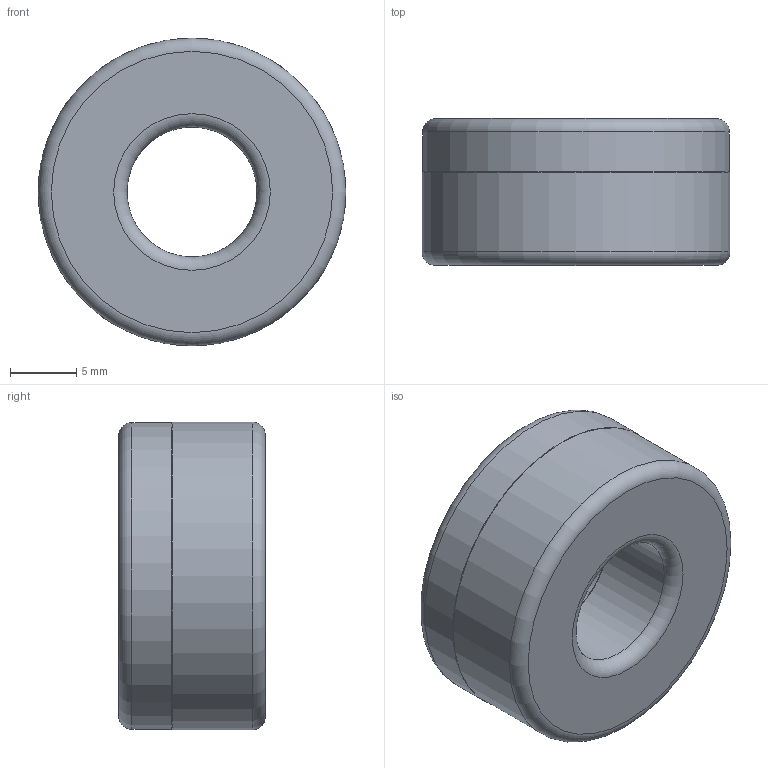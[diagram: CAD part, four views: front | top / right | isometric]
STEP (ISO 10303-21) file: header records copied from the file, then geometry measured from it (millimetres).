
FILE_DESCRIPTION(/* description */ (''),/* implementation_level */ '2;1');
FILE_NAME(/* name */ 'G:\KB-FTKon\CAD\Inventor\Kundenmodelle\Kerne\V311\V311_Shrinkwrap_1.stp',/* time_stamp */ '2020-01-13T11:21:31+01:00',/* author */ ('de881284'),/* organization */ (''),/* preprocessor_version */ 'ST-DEVELOPER v18',/* originating_system */ 'Autodesk Inventor 2020',/* authorisation */ '');
FILE_SCHEMA (('AUTOMOTIVE_DESIGN { 1 0 10303 214 3 1 1 }'));
Length unit declared in the file: millimetre
Products named in the file (1): V311_Shrinkwrap_1
Bounding box: 23.2 x 11.05 x 23.2 mm (x, y, z)
Volume: 3788.5 mm3; surface area: 1884.2 mm2
Topology: 1 solids, 1 shells, 18 faces, 40 edges, 28 vertices
Faces by surface type: plane 6, cylinder 6, torus 4, cone 2
Full cylindrical faces by diameter (mm): 9.8 x2, 10.8 x1, 22.2 x1, 23.2 x2
Entity records: 609 total; most frequent: DIRECTION 110, CARTESIAN_POINT 87, ORIENTED_EDGE 80, AXIS2_PLACEMENT_3D 51, EDGE_CURVE 40, CIRCLE 32, VERTEX_POINT 28, EDGE_LOOP 24
